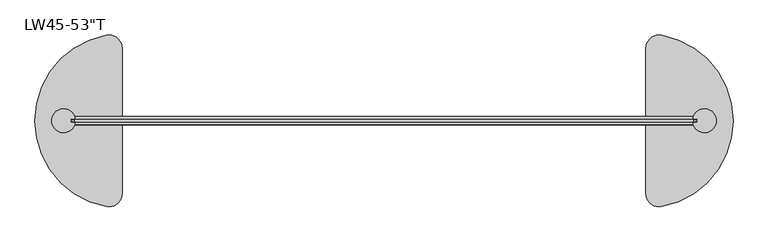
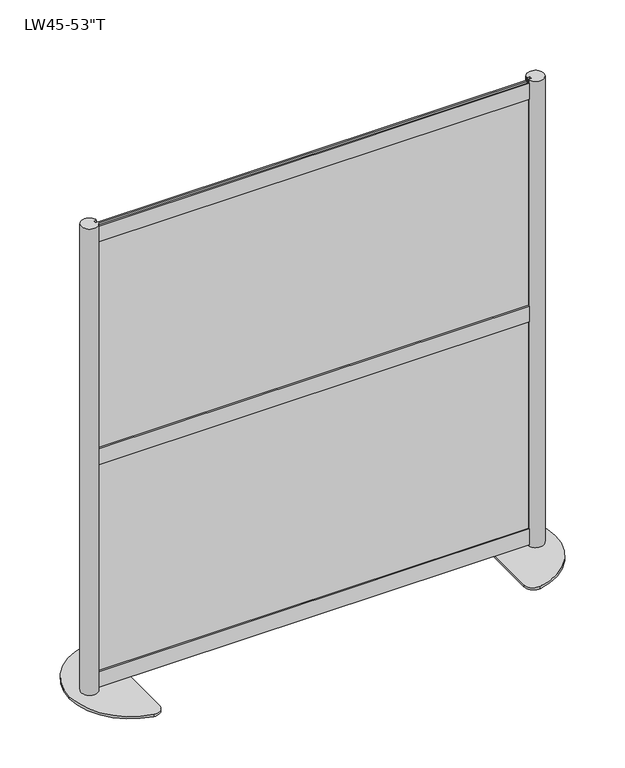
"""IFC4 building model written with IfcOpenShell, lengths in millimetres: furniture geometry."""

from ifc_helpers import new_model, si_unit, point, frame, frame_2d, origin, origin_with_axes, place, context, project, spatial, polyline, circle_curve, trimmed, segment, composite_curve, outline, extrude, source, transform, mapped, element, save


def furniture_814bd26c(model_context):
    return source(origin(), model_context, "Body", "SweptSolid", [
        extrude(outline(polyline([(594.51875, -1.5875), (-594.51875, -1.5875), (-594.51875, 1.5875), (594.51875, 1.5875), (594.51875, -1.5875)])), frame((0.0, 0.0, 689.2671), z_axis=(0.0, 0.0, 1.0), x_axis=(1.0, 0.0, 0.0)), (0.0, 0.0, 1.0), 608.965),
        extrude(outline(polyline([(594.51875, -1.5875), (-594.51875, -1.5875), (-594.51875, 1.5875), (594.51875, 1.5875), (594.51875, -1.5875)])), frame((0.0, 0.0, 49.2633), z_axis=(0.0, 0.0, 1.0), x_axis=(1.0, 0.0, 0.0)), (0.0, 0.0, 1.0), 608.965),
        extrude(outline(polyline([(3.556, 651.1163), (3.556, 658.2283), (-3.556, 658.2283), (-3.556, 651.1163), (-7.6327, 651.1163), (-7.6327, 696.3791), (-3.556, 696.3791), (-3.556, 689.2671), (3.556, 689.2671), (3.556, 696.3791), (7.6327, 696.3791), (7.6327, 651.1163), (3.556, 651.1163)])), frame((-584.9874, 0.0, 0.0), z_axis=(1.0, 0.0, 0.0), x_axis=(0.0, 1.0, 0.0)), (0.0, 0.0, 1.0), 1169.9748),
        extrude(outline(polyline([(3.556, 11.1125), (3.556, 18.2245), (-3.556, 18.2245), (-3.556, 11.1125), (-7.6327, 11.1125), (-7.6327, 56.3753), (-3.556, 56.3753), (-3.556, 49.2633), (3.556, 49.2633), (3.556, 56.3753), (7.6327, 56.3753), (7.6327, 11.1125), (3.556, 11.1125)])), frame((-585.0636, 0.0, 0.0), z_axis=(1.0, 0.0, 0.0), x_axis=(0.0, 1.0, 0.0)), (0.0, 0.0, 1.0), 1170.1272),
        extrude(outline(polyline([(3.556, 1291.1200292), (3.556, 1298.2320292), (-3.556, 1298.2320292), (-3.556, 1291.1200292), (-7.6327, 1291.1200292), (-7.6327, 1336.3828292), (-3.556, 1336.3828292), (-3.556, 1329.2708292), (3.556, 1329.2708292), (3.556, 1336.3828292), (7.6327, 1336.3828292), (7.6327, 1291.1200292), (3.556, 1291.1200292)])), frame((-585.0636, 0.0, 0.0), z_axis=(1.0, 0.0, 0.0), x_axis=(0.0, 1.0, 0.0)), (0.0, 0.0, 1.0), 1170.1272),
        extrude(outline(composite_curve([segment(polyline([(585.0636, -7.7568093), (585.0636, -3.556), (592.1756, -3.556), (592.1756, 3.556), (585.0636, 3.556), (585.0636, 7.7568093)]), True, "CONTINUOUS"), segment(trimmed(circle_curve(frame_2d((606.1665837, 0.0)), 22.4834163), [point((585.0636, 7.7568093))], [point((585.0636, -7.7568093))], False, "CARTESIAN"), True, "CONTINUOUS")], self_intersect=False)), frame((0.0, 0.0, 6.35), z_axis=(0.0, 0.0, 1.0), x_axis=(1.0, 0.0, 0.0)), (0.0, 0.0, 1.0), 1339.85),
        extrude(outline(composite_curve([segment(polyline([(495.3, -137.3715036), (495.3, 137.3715036)]), True, "CONTINUOUS"), segment(trimmed(circle_curve(frame_2d((520.7, 137.3715036)), 25.4), [point((495.3, 137.3715036))], [point((525.3181818, 162.3481406))], False, "CARTESIAN"), True, "CONTINUOUS"), segment(trimmed(circle_curve(frame_2d((495.3, 0.0)), 165.1), [point((525.3181818, 162.3481406))], [point((660.4, 0.0))], False, "CARTESIAN"), True, "CONTINUOUS"), segment(trimmed(circle_curve(frame_2d((495.3, 0.0)), 165.1), [point((660.4, 0.0))], [point((525.3181818, -162.3481406))], False, "CARTESIAN"), True, "CONTINUOUS"), segment(trimmed(circle_curve(frame_2d((520.7, -137.3715036)), 25.4), [point((525.3181818, -162.3481406))], [point((495.3, -137.3715036))], False, "CARTESIAN"), True, "CONTINUOUS")], self_intersect=False)), origin_with_axes(), (0.0, 0.0, 1.0), 6.35),
        extrude(outline(composite_curve([segment(trimmed(circle_curve(frame_2d((-606.1665837, 0.0)), 22.4834163), [point((-585.0636, -7.7568093))], [point((-585.0636, 7.7568093))], False, "CARTESIAN"), True, "CONTINUOUS"), segment(polyline([(-585.0636, 7.7568093), (-585.0636, 3.556), (-592.1756, 3.556), (-592.1756, -3.556), (-585.0636, -3.556), (-585.0636, -7.7568093)]), True, "CONTINUOUS")], self_intersect=False)), frame((0.0, 0.0, 6.35), z_axis=(0.0, 0.0, 1.0), x_axis=(1.0, 0.0, 0.0)), (0.0, 0.0, 1.0), 1339.85),
        extrude(outline(composite_curve([segment(trimmed(circle_curve(frame_2d((-520.7, -137.3715036)), 25.4), [point((-495.3, -137.3715036))], [point((-525.3181818, -162.3481406))], False, "CARTESIAN"), True, "CONTINUOUS"), segment(trimmed(circle_curve(frame_2d((-495.3, 0.0)), 165.1), [point((-525.3181818, -162.3481406))], [point((-660.4, 0.0))], False, "CARTESIAN"), True, "CONTINUOUS"), segment(trimmed(circle_curve(frame_2d((-495.3, 0.0)), 165.1), [point((-660.4, 0.0))], [point((-525.3181818, 162.3481406))], False, "CARTESIAN"), True, "CONTINUOUS"), segment(trimmed(circle_curve(frame_2d((-520.7, 137.3715036)), 25.4), [point((-525.3181818, 162.3481406))], [point((-495.3, 137.3715036))], False, "CARTESIAN"), True, "CONTINUOUS"), segment(polyline([(-495.3, 137.3715036), (-495.3, -137.3715036)]), True, "CONTINUOUS")], self_intersect=False)), origin_with_axes(), (0.0, 0.0, 1.0), 6.35),
    ])


if __name__ == "__main__":
    model = new_model("IFC4")
    model_context = context("Model", 3, world=origin())
    ifc_project = project(units=[si_unit("LENGTHUNIT", "METRE", prefix="MILLI")], contexts=[model_context])
    site = spatial("IfcSite", under=ifc_project)
    building = spatial("IfcBuilding", under=site)
    placement = place(None, origin())
    furniture_shape = furniture_814bd26c(model_context)
    element("IfcFurniture", 1, ObjectType="Loft_Wall-Framewall-52 : LW45-53\"T", at=placement, inside=building, context=model_context, shape_type="MappedRepresentation", body=[
        mapped(furniture_shape, transform((0.0, 0.0, 0.0), x_axis=(1.0, 0.0, 0.0), y_axis=(0.0, 1.0, 0.0), z_axis=(0.0, 0.0, 1.0))),
    ])
    save(model, "model.ifc")
